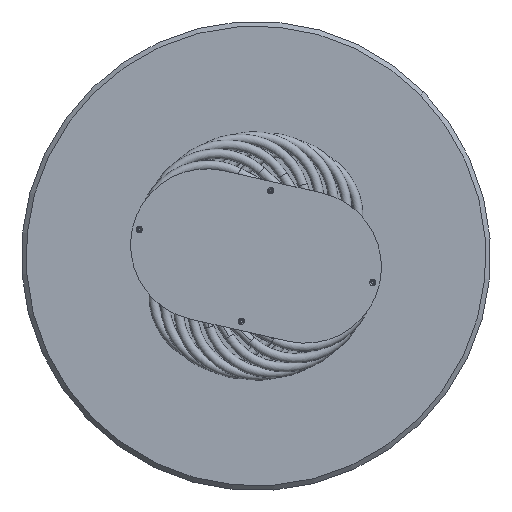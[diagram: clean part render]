
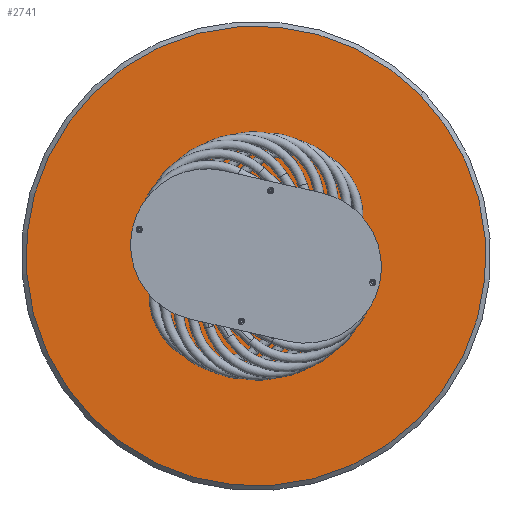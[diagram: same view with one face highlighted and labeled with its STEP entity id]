
A CAD part, front view. The second image highlights one B-rep face of the part: STEP entity #2741.
In plain terms, the highlighted planar face has unit normal (0, -1, 0).
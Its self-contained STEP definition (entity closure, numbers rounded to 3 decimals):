
#137 = CARTESIAN_POINT ( 'NONE',  ( 0., 0., 0. ) ) ;
#230 = DIRECTION ( 'NONE',  ( 0., -1., 0. ) ) ;
#356 = EDGE_CURVE ( 'NONE', #7844, #6948, #8980, .T. ) ;
#559 = DIRECTION ( 'NONE',  ( 0., -1., 0. ) ) ;
#677 = DIRECTION ( 'NONE',  ( 0., 0., -1. ) ) ;
#768 = DIRECTION ( 'NONE',  ( 0., -1., 0. ) ) ;
#1334 = DIRECTION ( 'NONE',  ( 0., 0., -1. ) ) ;
#1447 = CARTESIAN_POINT ( 'NONE',  ( -95., 0., -54.848 ) ) ;
#1509 = EDGE_CURVE ( 'NONE', #2659, #12417, #4920, .T. ) ;
#1787 = AXIS2_PLACEMENT_3D ( 'NONE', #11461, #6140, #3759 ) ;
#1848 = VERTEX_POINT ( 'NONE', #4606 ) ;
#1945 = CIRCLE ( 'NONE', #13155, 490. ) ;
#2046 = CARTESIAN_POINT ( 'NONE',  ( -95., 0., -54.848 ) ) ;
#2105 = VERTEX_POINT ( 'NONE', #4508 ) ;
#2341 = DIRECTION ( 'NONE',  ( 0., -1., 0. ) ) ;
#2428 = DIRECTION ( 'NONE',  ( 0., -1., 0. ) ) ;
#2445 = CARTESIAN_POINT ( 'NONE',  ( 0., 0., 0. ) ) ;
#2511 = EDGE_CURVE ( 'NONE', #2105, #8298, #1945, .T. ) ;
#2521 = FACE_OUTER_BOUND ( 'NONE', #6934, .T. ) ;
#2532 = VERTEX_POINT ( 'NONE', #11304 ) ;
#2615 = AXIS2_PLACEMENT_3D ( 'NONE', #137, #4421, #1334 ) ;
#2618 = CARTESIAN_POINT ( 'NONE',  ( 0., 0., 109.697 ) ) ;
#2653 = DIRECTION ( 'NONE',  ( 0., -1., 0. ) ) ;
#2659 = VERTEX_POINT ( 'NONE', #4697 ) ;
#2741 = ADVANCED_FACE ( 'NONE', ( #7878, #8848, #12127, #10174, #2521 ), #6890, .T. ) ;
#2904 = DIRECTION ( 'NONE',  ( 0., -1., 0. ) ) ;
#2920 = AXIS2_PLACEMENT_3D ( 'NONE', #8939, #4582, #8866 ) ;
#2947 = DIRECTION ( 'NONE',  ( 0., 0., -1. ) ) ;
#3208 = CARTESIAN_POINT ( 'NONE',  ( 0., 0., 113.097 ) ) ;
#3219 = EDGE_CURVE ( 'NONE', #1848, #2532, #4457, .T. ) ;
#3446 = EDGE_CURVE ( 'NONE', #6948, #7844, #6026, .T. ) ;
#3654 = ORIENTED_EDGE ( 'NONE', *, *, #3219, .F. ) ;
#3759 = DIRECTION ( 'NONE',  ( 0., 0., -1. ) ) ;
#4394 = EDGE_LOOP ( 'NONE', ( #12322, #5629 ) ) ;
#4393 = AXIS2_PLACEMENT_3D ( 'NONE', #9775, #230, #8726 ) ;
#4421 = DIRECTION ( 'NONE',  ( 0., -1., 0. ) ) ;
#4425 = EDGE_CURVE ( 'NONE', #12417, #2659, #7539, .T. ) ;
#4457 = CIRCLE ( 'NONE', #7596, 3.4 ) ;
#4476 = EDGE_LOOP ( 'NONE', ( #12884, #3654 ) ) ;
#4508 = CARTESIAN_POINT ( 'NONE',  ( 0., 0., 490. ) ) ;
#4582 = DIRECTION ( 'NONE',  ( 0., -1., 0. ) ) ;
#4606 = CARTESIAN_POINT ( 'NONE',  ( -95., 0., -51.448 ) ) ;
#4697 = CARTESIAN_POINT ( 'NONE',  ( 95., 0., -58.248 ) ) ;
#4920 = CIRCLE ( 'NONE', #6722, 3.4 ) ;
#4975 = EDGE_CURVE ( 'NONE', #8298, #2105, #8897, .T. ) ;
#4980 = CARTESIAN_POINT ( 'NONE',  ( 95., 0., -51.448 ) ) ;
#5062 = VERTEX_POINT ( 'NONE', #7151 ) ;
#5629 = ORIENTED_EDGE ( 'NONE', *, *, #4425, .F. ) ;
#5700 = EDGE_LOOP ( 'NONE', ( #7500, #9743 ) ) ;
#6026 = CIRCLE ( 'NONE', #7832, 3.4 ) ;
#6050 = CIRCLE ( 'NONE', #12982, 3.4 ) ;
#6140 = DIRECTION ( 'NONE',  ( 0., -1., 0. ) ) ;
#6376 = ORIENTED_EDGE ( 'NONE', *, *, #2511, .T. ) ;
#6659 = AXIS2_PLACEMENT_3D ( 'NONE', #2046, #9629, #2947 ) ;
#6722 = AXIS2_PLACEMENT_3D ( 'NONE', #10372, #2653, #9257 ) ;
#6890 = PLANE ( 'NONE',  #13817 ) ;
#6924 = DIRECTION ( 'NONE',  ( 0., 0., -1. ) ) ;
#6934 = EDGE_LOOP ( 'NONE', ( #6376, #11928 ) ) ;
#6948 = VERTEX_POINT ( 'NONE', #11929 ) ;
#7046 = CARTESIAN_POINT ( 'NONE',  ( 0., 0., 0. ) ) ;
#7151 = CARTESIAN_POINT ( 'NONE',  ( 0., 0., 106.297 ) ) ;
#7500 = ORIENTED_EDGE ( 'NONE', *, *, #13110, .F. ) ;
#7539 = CIRCLE ( 'NONE', #4393, 3.4 ) ;
#7557 = CIRCLE ( 'NONE', #6659, 3.4 ) ;
#7596 = AXIS2_PLACEMENT_3D ( 'NONE', #1447, #2428, #10926 ) ;
#7642 = EDGE_CURVE ( 'NONE', #2532, #1848, #7557, .T. ) ;
#7659 = CARTESIAN_POINT ( 'NONE',  ( 0., 0., -490. ) ) ;
#7832 = AXIS2_PLACEMENT_3D ( 'NONE', #11398, #2904, #677 ) ;
#7844 = VERTEX_POINT ( 'NONE', #13525 ) ;
#7855 = CIRCLE ( 'NONE', #2920, 3.4 ) ;
#7878 = FACE_BOUND ( 'NONE', #4476, .T. ) ;
#7900 = ORIENTED_EDGE ( 'NONE', *, *, #356, .F. ) ;
#8297 = VERTEX_POINT ( 'NONE', #3208 ) ;
#8298 = VERTEX_POINT ( 'NONE', #7659 ) ;
#8726 = DIRECTION ( 'NONE',  ( 0., 0., -1. ) ) ;
#8848 = FACE_BOUND ( 'NONE', #4394, .T. ) ;
#8866 = DIRECTION ( 'NONE',  ( 0., 0., -1. ) ) ;
#8897 = CIRCLE ( 'NONE', #2615, 490. ) ;
#8939 = CARTESIAN_POINT ( 'NONE',  ( 0., 0., 109.697 ) ) ;
#8980 = CIRCLE ( 'NONE', #1787, 3.4 ) ;
#9257 = DIRECTION ( 'NONE',  ( 0., 0., -1. ) ) ;
#9629 = DIRECTION ( 'NONE',  ( 0., -1., 0. ) ) ;
#9743 = ORIENTED_EDGE ( 'NONE', *, *, #11305, .F. ) ;
#9775 = CARTESIAN_POINT ( 'NONE',  ( 95., 0., -54.848 ) ) ;
#10174 = FACE_BOUND ( 'NONE', #13098, .T. ) ;
#10372 = CARTESIAN_POINT ( 'NONE',  ( 95., 0., -54.848 ) ) ;
#10926 = DIRECTION ( 'NONE',  ( 0., 0., -1. ) ) ;
#11155 = DIRECTION ( 'NONE',  ( 0., 0., -1. ) ) ;
#11304 = CARTESIAN_POINT ( 'NONE',  ( -95., 0., -58.248 ) ) ;
#11305 = EDGE_CURVE ( 'NONE', #8297, #5062, #6050, .T. ) ;
#11398 = CARTESIAN_POINT ( 'NONE',  ( 0., 0., 0. ) ) ;
#11461 = CARTESIAN_POINT ( 'NONE',  ( 0., 0., 0. ) ) ;
#11928 = ORIENTED_EDGE ( 'NONE', *, *, #4975, .T. ) ;
#11929 = CARTESIAN_POINT ( 'NONE',  ( 0., 0., 3.4 ) ) ;
#12127 = FACE_BOUND ( 'NONE', #5700, .T. ) ;
#12163 = ORIENTED_EDGE ( 'NONE', *, *, #3446, .F. ) ;
#12322 = ORIENTED_EDGE ( 'NONE', *, *, #1509, .F. ) ;
#12417 = VERTEX_POINT ( 'NONE', #4980 ) ;
#12884 = ORIENTED_EDGE ( 'NONE', *, *, #7642, .F. ) ;
#12982 = AXIS2_PLACEMENT_3D ( 'NONE', #2618, #2341, #6924 ) ;
#13098 = EDGE_LOOP ( 'NONE', ( #7900, #12163 ) ) ;
#13110 = EDGE_CURVE ( 'NONE', #5062, #8297, #7855, .T. ) ;
#13155 = AXIS2_PLACEMENT_3D ( 'NONE', #7046, #768, #13591 ) ;
#13525 = CARTESIAN_POINT ( 'NONE',  ( 0., 0., -3.4 ) ) ;
#13591 = DIRECTION ( 'NONE',  ( 0., 0., -1. ) ) ;
#13817 = AXIS2_PLACEMENT_3D ( 'NONE', #2445, #559, #11155 ) ;
